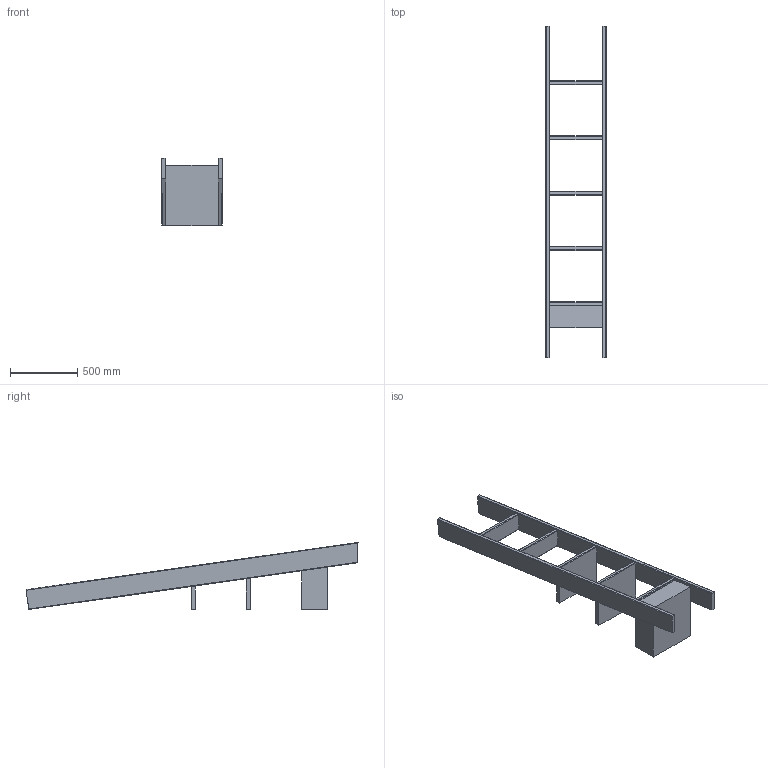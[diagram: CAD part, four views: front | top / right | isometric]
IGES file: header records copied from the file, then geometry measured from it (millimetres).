
Start section: SolidWorks IGES file using analytic representation for surfaces
Global section: file name: C:\Users\Kuma\Box Sync\Autoban\217 Ladder Bookcase\sales related\3D IGES\217L Ladder Bookcase_IGES.IGS; native system: SolidWorks 2016; preprocessor: SolidWorks 2016; author: kuma; date: 161128.173350; units: millimetre
Bounding box: 450 x 2475.2 x 500 mm (x, y, z)
Surface area: 3193779.4 mm2 (no closed solid volume)
Topology: 0 solids, 0 shells, 65 faces, 570 edges, 570 vertices
Faces by surface type: bspline 40, revolution 25
